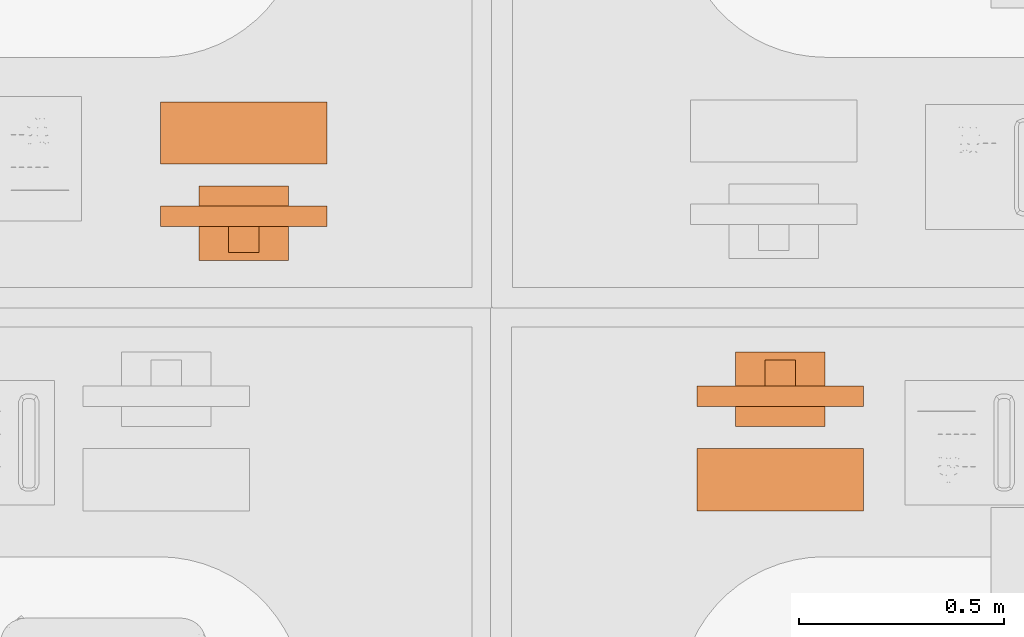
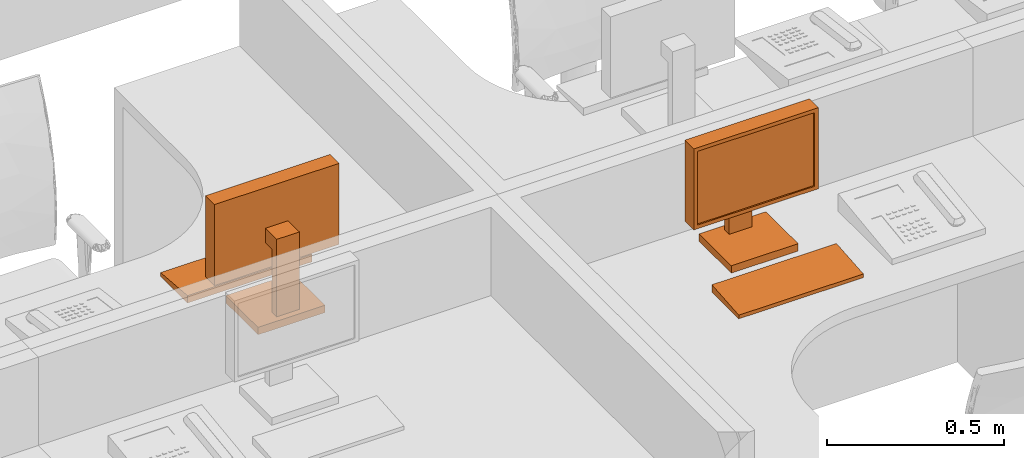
# One storey, part 101 of 142: 2 proxies.
"""IFC2X3 building model written with IfcOpenShell, lengths in feet."""

from ifc_helpers import new_model, entity, si_unit, converted_unit, derived_unit, direction, frame, origin, place, context, subcontext, project, spatial, faceted_brep, source, transform, mapped, type_object, type_shapes, element, save


model = new_model("IFC2X3")

# Units and contexts
model_context = context("Model", 3, precision=0.0001, world=origin(), true_north=direction((6.12303176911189e-17, 1.0)))
body_context = subcontext(model_context, "Body", "Model", "MODEL_VIEW")
ifc_project = project(units=[converted_unit("LENGTHUNIT", "FOOT", entity("IfcRatioMeasure", 0.3048), si_unit("LENGTHUNIT", "METRE"), dimensions=[1, 0, 0, 0, 0, 0, 0]), converted_unit("AREAUNIT", "SQUARE FOOT", entity("IfcRatioMeasure", 0.09290304), si_unit("AREAUNIT", "SQUARE_METRE"), dimensions=[2, 0, 0, 0, 0, 0, 0]), converted_unit("VOLUMEUNIT", "CUBIC FOOT", entity("IfcRatioMeasure", 0.028316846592), si_unit("VOLUMEUNIT", "CUBIC_METRE"), dimensions=[3, 0, 0, 0, 0, 0, 0]), converted_unit("PLANEANGLEUNIT", "DEGREE", entity("IfcRatioMeasure", 0.0174532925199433), si_unit("PLANEANGLEUNIT", "RADIAN"), dimensions=[0, 0, 0, 0, 0, 0, 0]), si_unit("MASSUNIT", "GRAM", prefix="KILO"), derived_unit("MASSDENSITYUNIT", [(si_unit("MASSUNIT", "GRAM", prefix="KILO"), 1), (si_unit("LENGTHUNIT", "METRE"), -3)]), si_unit("TIMEUNIT", "SECOND"), si_unit("FREQUENCYUNIT", "HERTZ"), si_unit("THERMODYNAMICTEMPERATUREUNIT", "DEGREE_CELSIUS"), derived_unit("THERMALTRANSMITTANCEUNIT", [(si_unit("MASSUNIT", "GRAM", prefix="KILO"), 1), (si_unit("THERMODYNAMICTEMPERATUREUNIT", "KELVIN"), -1), (si_unit("TIMEUNIT", "SECOND"), -3)]), derived_unit("VOLUMETRICFLOWRATEUNIT", [(si_unit("LENGTHUNIT", "METRE"), 3), (si_unit("TIMEUNIT", "SECOND"), -1)]), si_unit("ELECTRICCURRENTUNIT", "AMPERE"), si_unit("ELECTRICVOLTAGEUNIT", "VOLT"), si_unit("POWERUNIT", "WATT"), si_unit("FORCEUNIT", "NEWTON"), si_unit("ILLUMINANCEUNIT", "LUX"), si_unit("LUMINOUSFLUXUNIT", "LUMEN"), si_unit("LUMINOUSINTENSITYUNIT", "CANDELA"), derived_unit("USERDEFINED", [(si_unit("MASSUNIT", "GRAM", prefix="KILO"), -1), (si_unit("LENGTHUNIT", "METRE"), -2), (si_unit("TIMEUNIT", "SECOND"), 3), (si_unit("LUMINOUSFLUXUNIT", "LUMEN"), 1)]), derived_unit("LINEARVELOCITYUNIT", [(si_unit("LENGTHUNIT", "METRE"), 1), (si_unit("TIMEUNIT", "SECOND"), -1)]), si_unit("PRESSUREUNIT", "PASCAL"), derived_unit("USERDEFINED", [(si_unit("LENGTHUNIT", "METRE"), -2), (si_unit("MASSUNIT", "GRAM", prefix="KILO"), 1), (si_unit("TIMEUNIT", "SECOND"), -2)])], contexts=[model_context])

# Site, building, storey, space
site_placement = place(None, origin())
site = spatial("IfcSite", under=ifc_project, at=site_placement, Name="Default", CompositionType="ELEMENT")
building_placement = place(site_placement, origin())
building = spatial("IfcBuilding", under=site, at=building_placement, Name="OUTPATIENT / PACT CLINIC (Ch. 265)", CompositionType="ELEMENT")
storey_placement = place(building_placement, origin())
storey = spatial("IfcBuildingStorey", under=building, at=storey_placement, Name="LEVEL 1", CompositionType="ELEMENT", Elevation=0.0)
space_placement = place(storey_placement, origin())
space = spatial("IfcSpace", under=storey, at=space_placement, Name="WRTM1", CompositionType="ELEMENT", InteriorOrExteriorSpace="INTERNAL")

# Proxies
building_element_proxy_type = type_object("IfcBuildingElementProxyType", Name="M1801 - Computer with Flat Panel Monitor", PredefinedType="NOTDEFINED")
shared_shape = source(origin(), body_context, "Body", "Brep", [
    faceted_brep([(0.666666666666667, 0.5625, 0.0), (0.666666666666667, 0.5625, 0.0416666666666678), (0.666666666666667, 0.0624999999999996, 0.0833333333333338), (0.666666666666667, 0.0624999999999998, 0.0), (-0.666666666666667, 0.5625, 0.0), (-0.666666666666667, 0.0624999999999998, 0.0), (-0.666666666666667, 0.0624999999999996, 0.0833333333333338), (-0.666666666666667, 0.5625, 0.0416666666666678)], [[[0, 1, 2, 3]], [[4, 5, 6, 7]], [[3, 5, 4, 0]], [[2, 6, 5, 3]], [[1, 7, 6, 2]], [[0, 4, 7, 1]]]),
    faceted_brep([(0.666666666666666, -0.437223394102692, 1.41666666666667), (0.666666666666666, -0.271109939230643, 1.41666666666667), (-0.666666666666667, -0.271109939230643, 1.41666666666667), (-0.666666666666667, -0.437223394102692, 1.41666666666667), (0.666666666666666, -0.437223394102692, 0.500000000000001), (-0.666666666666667, -0.437223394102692, 0.500000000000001), (-0.666666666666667, -0.271109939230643, 0.500000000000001), (0.666666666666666, -0.271109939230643, 0.500000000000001), (-0.625, -0.271109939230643, 1.375), (-0.625, -0.271109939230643, 0.541666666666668), (0.625, -0.271109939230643, 0.541666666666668), (0.625, -0.271109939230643, 1.375), (0.625, -0.286812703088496, 1.375), (-0.625, -0.286812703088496, 1.375), (0.625, -0.286812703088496, 0.541666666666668), (-0.625, -0.286812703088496, 0.541666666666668)], [[[0, 1, 2, 3]], [[4, 5, 6, 7]], [[3, 5, 4, 0]], [[2, 6, 5, 3]], [[8, 9, 10, 11], [1, 7, 6, 2]], [[0, 4, 7, 1]], [[12, 13, 8, 11]], [[14, 10, 9, 15]], [[12, 14, 15, 13]], [[13, 15, 9, 8]], [[11, 10, 14, 12]]], outer=[[True], [True], [True], [True], [False, True], [True], [True], [True], [True], [True], [True]]),
    faceted_brep([(0.358011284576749, -0.111770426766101, 0.0833333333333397), (0.358011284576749, -0.708333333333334, 0.0833333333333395), (0.358011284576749, -0.708333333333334, 0.0), (0.358011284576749, -0.111770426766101, 0.0), (-0.358011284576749, -0.708333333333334, 0.0833333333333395), (-0.358011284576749, -0.111770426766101, 0.0833333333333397), (-0.358011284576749, -0.111770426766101, 0.0), (-0.358011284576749, -0.708333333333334, 0.0), (0.12128795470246, -0.645556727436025, 0.104166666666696), (-0.12128795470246, -0.645556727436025, 0.104166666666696), (-0.12128795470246, -0.645556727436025, 0.0833333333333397), (0.12128795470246, -0.645556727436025, 0.0833333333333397), (0.12128795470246, -0.645556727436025, 0.958333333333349), (-0.12128795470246, -0.645556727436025, 0.958333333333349), (0.12128795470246, -0.437223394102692, 0.958333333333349), (-0.12128795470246, -0.437223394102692, 0.958333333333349), (0.12128795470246, -0.437223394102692, 0.791666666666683), (-0.12128795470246, -0.437223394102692, 0.791666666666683), (0.12128795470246, -0.562223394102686, 0.791666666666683), (-0.12128795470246, -0.562223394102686, 0.791666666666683), (0.12128795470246, -0.562223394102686, 0.0833333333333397), (-0.12128795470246, -0.562223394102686, 0.0833333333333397)], [[[0, 1, 2, 3]], [[4, 5, 6, 7]], [[8, 9, 10, 11]], [[12, 13, 9, 8]], [[14, 15, 13, 12]], [[16, 17, 15, 14]], [[18, 19, 17, 16]], [[20, 21, 19, 18]], [[11, 10, 21, 20], [0, 5, 4, 1]], [[3, 6, 5, 0]], [[2, 7, 6, 3]], [[1, 4, 7, 2]], [[20, 18, 16, 14, 12, 8, 11]], [[10, 9, 13, 15, 17, 19, 21]]], outer=[[True], [True], [True], [True], [True], [True], [True], [True], [False, True], [True], [True], [True], [True], [True]]),
])
type_shapes(building_element_proxy_type, [shared_shape])
proxy_1_placement = place(space_placement, frame((421.669780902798, -923.698016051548, 2.49999999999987), z_axis=(0.0, 0.0, 1.0), x_axis=(-1.0, 0.0, 0.0)))
element("IfcBuildingElementProxy", 1, at=proxy_1_placement, inside=space, type_object=building_element_proxy_type, Name="M1801 - Computer with Flat Panel Monitor:M1801 - Computer with Flat Panel Monitor", ObjectType="M1801 - Computer with Flat Panel Monitor", context=body_context, shape_type="MappedRepresentation", body=[
    mapped(shared_shape, transform((0.0, 0.0, 0.0), scale=1.0)),
])
proxy_2_placement = place(space_placement, frame((417.374013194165, -921.547640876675, 2.49999999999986)))
element("IfcBuildingElementProxy", 2, at=proxy_2_placement, inside=space, type_object=building_element_proxy_type, Name="M1801 - Computer with Flat Panel Monitor:M1801 - Computer with Flat Panel Monitor", ObjectType="M1801 - Computer with Flat Panel Monitor", context=body_context, shape_type="MappedRepresentation", body=[
    mapped(shared_shape, transform((0.0, 0.0, 0.0), scale=1.0)),
])

save(model, "model.ifc")
